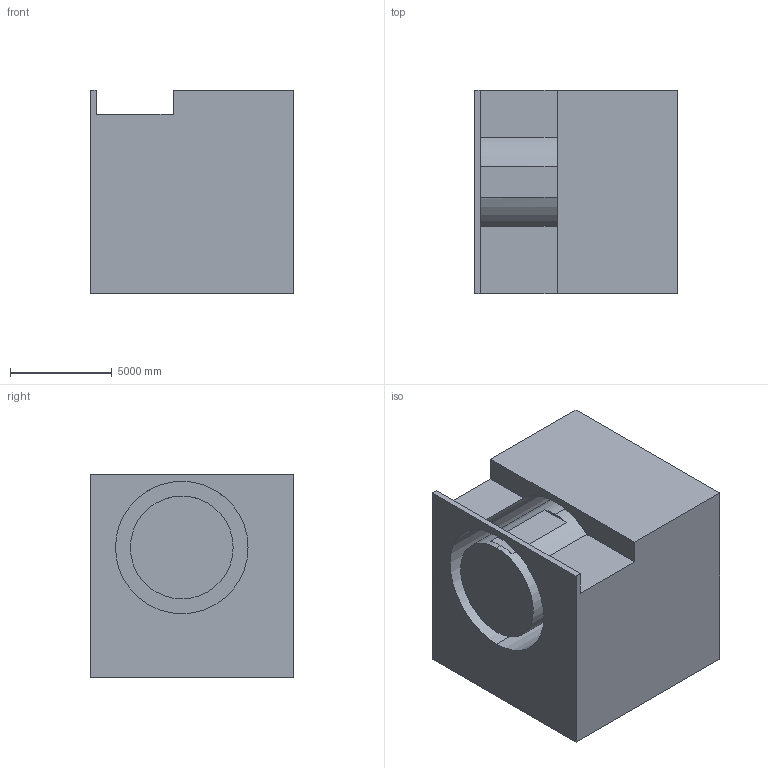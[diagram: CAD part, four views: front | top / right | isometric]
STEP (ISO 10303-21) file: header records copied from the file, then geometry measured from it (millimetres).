
FILE_DESCRIPTION (( 'STEP AP203' ), '1' );
FILE_NAME ('103.STEP', '2022-09-05T15:32:26', ( 'user' ), ( '' ), 'SwSTEP 2.0', 'SolidWorks 2021', '' );
FILE_SCHEMA (( 'CONFIG_CONTROL_DESIGN' ));
Length unit declared in the file: centimetre
Products named in the file (1): 103
Bounding box: 10000 x 10000 x 10000 mm (x, y, z)
Volume: 873159085646.8 mm3; surface area: 824423399.4 mm2
Topology: 1 solids, 1 shells, 20 faces, 54 edges, 36 vertices
Faces by surface type: plane 16, cylinder 4
Entity records: 715 total; most frequent: DIRECTION 112, CARTESIAN_POINT 111, ORIENTED_EDGE 108, EDGE_CURVE 54, LINE 38, VECTOR 38, AXIS2_PLACEMENT_3D 37, VERTEX_POINT 36
